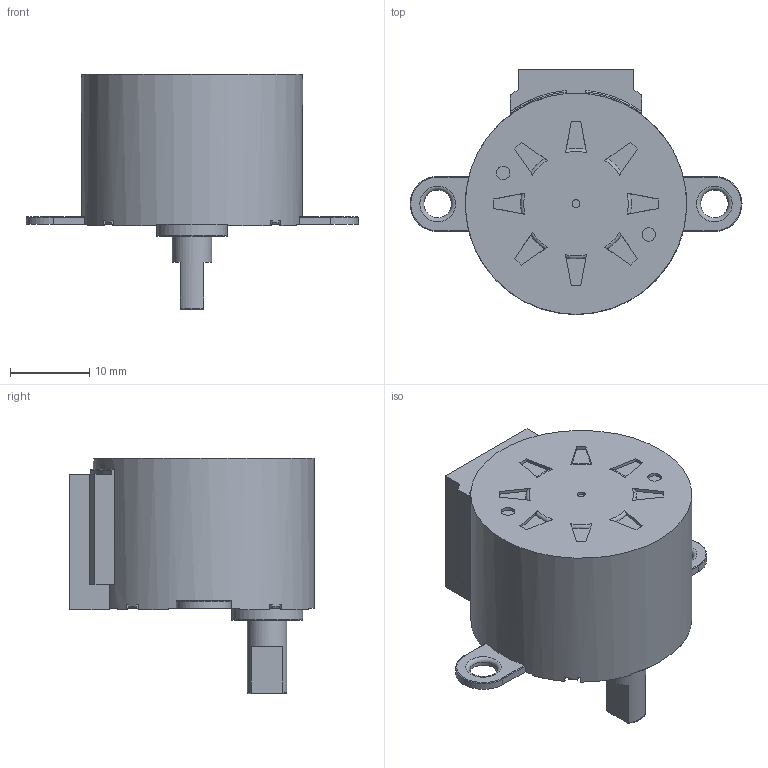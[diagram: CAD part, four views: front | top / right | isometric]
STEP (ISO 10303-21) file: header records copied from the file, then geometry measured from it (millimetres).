
FILE_DESCRIPTION(/* description */ ('STEP AP242 Edition 2','CAx-IF Rec.Pracs.---Representation and Presentation of Product Manufacturing Information (PMI)---4.0---2014-10-13','CAx-IF Rec.Pracs.---3D Tessellated Geometry---0.4---2014-09-14','2;1','CAx-IF Rec.Pracs.---User Defined Attributes---1.5---2016-08-15'),/* implementation_level */ '2;1');
FILE_NAME(/* name */ 'Assembly 1',/* time_stamp */ '2026-04-30T00:36:45Z',/* author */ (''),/* organization */ (''),/* preprocessor_version */ 'ST-DEVELOPER v20',/* originating_system */ 'ONSHAPE BY PTC INC, 1.214',/* authorisation */ ' ');
FILE_SCHEMA (('AP242_MANAGED_MODEL_BASED_3D_ENGINEERING_MIM_LF { 1 0 10303 442 3 1 4 }'));
Length unit declared in the file: metre
Products named in the file (1): 28byj-48 5v stepper motor
Bounding box: 42 x 31 x 29.8 mm (x, y, z)
Volume: 12911.7 mm3; surface area: 3734.7 mm2
Topology: 1 solids, 1 shells, 209 faces, 533 edges, 353 vertices
Faces by surface type: plane 135, cylinder 49, torus 25
Full cylindrical faces by diameter (mm): 0.4 x4, 0.5 x4, 1 x1, 1.7 x2, 3.5 x2, 5 x1, 8 x1, 9 x1, 28 x1
Entity records: 6605 total; most frequent: CARTESIAN_POINT 1200, DIRECTION 1048, ORIENTED_EDGE 1018, EDGE_CURVE 509, AXIS2_PLACEMENT_3D 373, VERTEX_POINT 349, LINE 302, VECTOR 302
